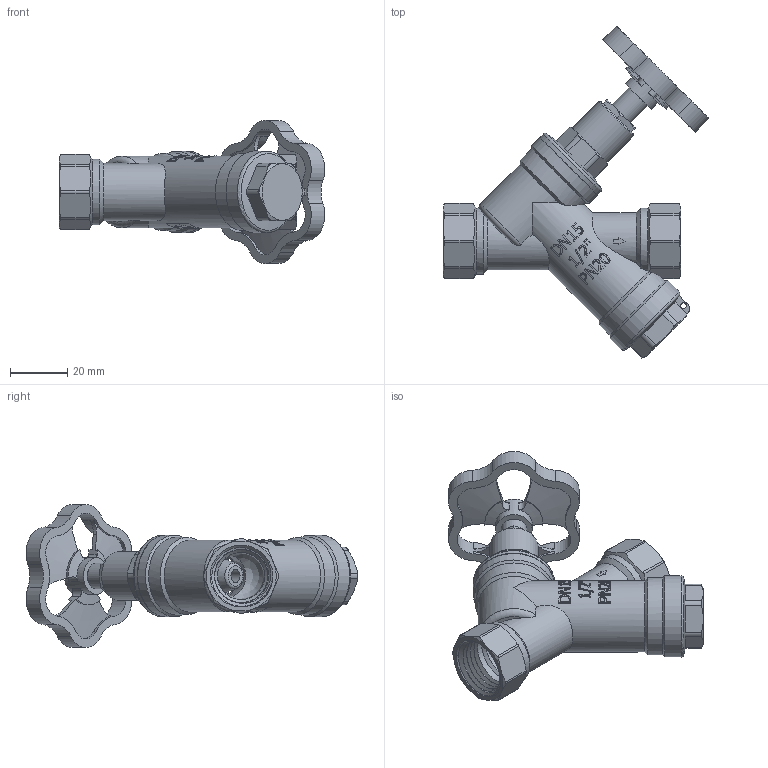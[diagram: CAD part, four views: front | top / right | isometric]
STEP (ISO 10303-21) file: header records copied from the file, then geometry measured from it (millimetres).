
FILE_DESCRIPTION(/* description */ (''),/* implementation_level */ '2;1');
FILE_NAME(/* name */ 'F:\Артём\00000\Работа удаленка\Вентили и задвижки\VT.053.N.04.stp',/* time_stamp */ '2020-11-05T13:55:51+03:00',/* author */ ('almis'),/* organization */ (''),/* preprocessor_version */ 'ST-DEVELOPER v18',/* originating_system */ 'Autodesk Inventor 2020',/* authorisation */ '');
FILE_SCHEMA (('AUTOMOTIVE_DESIGN { 1 0 10303 214 3 1 1 }'));
Length unit declared in the file: millimetre
Products named in the file (1): VT.053.N.04
Bounding box: 92.88 x 116.05 x 50 mm (x, y, z)
Volume: 41286.9 mm3; surface area: 31916.5 mm2
Topology: 1 solids, 4 shells, 611 faces, 1729 edges, 1177 vertices
Faces by surface type: plane 260, cylinder 166, cone 94, bspline 84, torus 7
Full cylindrical faces by diameter (mm): 2 x1, 4.5 x1, 5 x1, 6 x3, 6.928 x2, 8 x2, 8.485 x1, 9 x1, 9.8 x1, 10 x1, 11 x1, 12 x1, 12.5 x2, 12.8 x1, 14 x1, 14.585 x1, 16 x1, 16.5 x2, 17 x3, 18.6 x8, 20 x1, 21 x1, 22.2 x8, 22.5 x2, 23 x1, 24.5 x1, 25 x1, 27 x2, 28.3 x1, 28.5 x3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
Entity records: 26027 total; most frequent: CARTESIAN_POINT 11391, ORIENTED_EDGE 3454, DIRECTION 2575, EDGE_CURVE 1727, VERTEX_POINT 1177, AXIS2_PLACEMENT_3D 995, EDGE_LOOP 676, FACE_OUTER_BOUND 611
